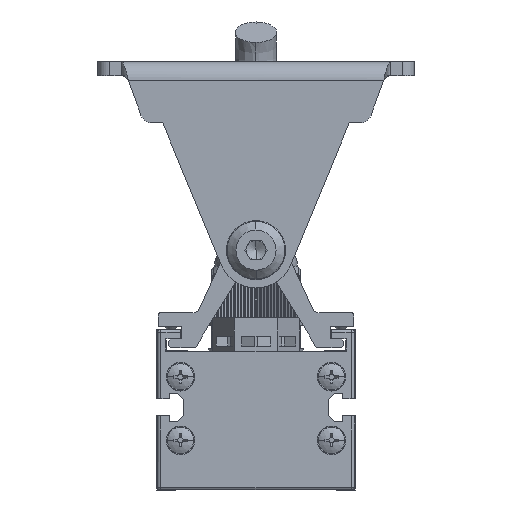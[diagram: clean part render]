
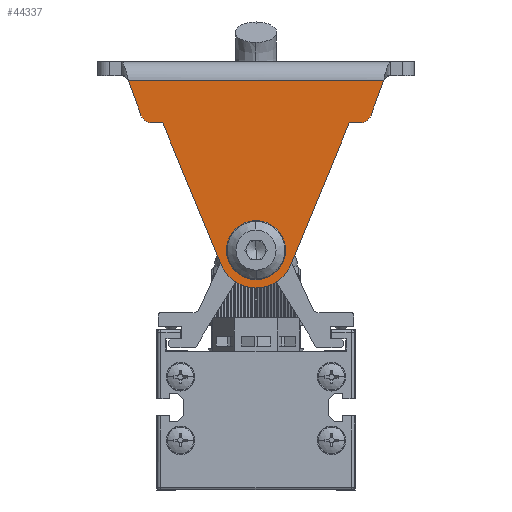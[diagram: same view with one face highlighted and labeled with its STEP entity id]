
A CAD part, front view. The second image highlights one B-rep face of the part: STEP entity #44337.
In plain terms, the highlighted planar face has unit normal (0, -1, 0) as drawn and (0, 0, -1) by its records, which use the part's own axes.
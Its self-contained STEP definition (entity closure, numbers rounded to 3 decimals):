
#43481=DIRECTION('',(-0.381,-0.924,0.));
#43482=VECTOR('',#43481,32.457);
#43483=CARTESIAN_POINT('',(-7.396,43.006,-18.));
#43484=LINE('',#43483,#43482);
#43485=DIRECTION('',(-1.,0.,0.));
#43486=VECTOR('',#43485,2.249);
#43487=CARTESIAN_POINT('',(-19.768,13.,-18.));
#43488=LINE('',#43487,#43486);
#43489=CARTESIAN_POINT('',(-22.018,10.5,-18.));
#43490=DIRECTION('',(0.,0.,1.));
#43491=DIRECTION('',(0.,1.,0.));
#43492=AXIS2_PLACEMENT_3D('',#43489,#43490,#43491);
#43494=DIRECTION('',(-0.342,-0.94,0.));
#43495=VECTOR('',#43494,7.827);
#43496=CARTESIAN_POINT('',(-24.367,11.355,-18.));
#43497=LINE('',#43496,#43495);
#43498=DIRECTION('',(-0.342,0.94,0.));
#43499=VECTOR('',#43498,7.827);
#43500=CARTESIAN_POINT('',(27.044,4.,-18.));
#43501=LINE('',#43500,#43499);
#43502=CARTESIAN_POINT('',(22.018,10.5,-18.));
#43503=DIRECTION('',(0.,0.,1.));
#43504=DIRECTION('',(0.94,0.342,0.));
#43505=AXIS2_PLACEMENT_3D('',#43502,#43503,#43504);
#43507=DIRECTION('',(-1.,0.,0.));
#43508=VECTOR('',#43507,2.249);
#43509=CARTESIAN_POINT('',(22.018,13.,-18.));
#43510=LINE('',#43509,#43508);
#43511=DIRECTION('',(-0.381,0.924,0.));
#43512=VECTOR('',#43511,32.457);
#43513=CARTESIAN_POINT('',(19.768,13.,-18.));
#43514=LINE('',#43513,#43512);
#43515=CARTESIAN_POINT('',(0.,39.957,-18.));
#43516=DIRECTION('',(0.,0.,1.));
#43517=DIRECTION('',(0.924,0.381,0.));
#43518=AXIS2_PLACEMENT_3D('',#43515,#43516,#43517);
#43520=CARTESIAN_POINT('',(0.,39.957,-18.));
#43521=DIRECTION('',(0.,0.,-1.));
#43522=DIRECTION('',(-1.,0.,0.));
#43523=AXIS2_PLACEMENT_3D('',#43520,#43521,#43522);
#43525=CARTESIAN_POINT('',(0.,39.957,-18.));
#43526=DIRECTION('',(0.,0.,-1.));
#43527=DIRECTION('',(1.,0.,0.));
#43528=AXIS2_PLACEMENT_3D('',#43525,#43526,#43527);
#43550=DIRECTION('',(-1.,0.,0.));
#43551=VECTOR('',#43550,54.088);
#43552=CARTESIAN_POINT('',(27.044,4.,-18.));
#43553=LINE('',#43552,#43551);
#44184=CARTESIAN_POINT('',(-7.396,43.006,-18.));
#44185=CARTESIAN_POINT('',(-19.768,13.,-18.));
#44186=VERTEX_POINT('',#44184);
#44187=VERTEX_POINT('',#44185);
#44188=CARTESIAN_POINT('',(-22.018,13.,-18.));
#44189=VERTEX_POINT('',#44188);
#44190=CARTESIAN_POINT('',(-24.367,11.355,-18.));
#44191=VERTEX_POINT('',#44190);
#44192=CARTESIAN_POINT('',(-27.044,4.,-18.));
#44193=VERTEX_POINT('',#44192);
#44194=CARTESIAN_POINT('',(27.044,4.,-18.));
#44195=VERTEX_POINT('',#44194);
#44196=CARTESIAN_POINT('',(24.367,11.355,-18.));
#44197=VERTEX_POINT('',#44196);
#44198=CARTESIAN_POINT('',(22.018,13.,-18.));
#44199=VERTEX_POINT('',#44198);
#44200=CARTESIAN_POINT('',(19.768,13.,-18.));
#44201=VERTEX_POINT('',#44200);
#44202=CARTESIAN_POINT('',(7.396,43.006,-18.));
#44203=VERTEX_POINT('',#44202);
#44204=CARTESIAN_POINT('',(-3.25,39.957,-18.));
#44205=CARTESIAN_POINT('',(3.25,39.957,-18.));
#44206=VERTEX_POINT('',#44204);
#44207=VERTEX_POINT('',#44205);
#44305=CARTESIAN_POINT('',(-33.5,0.,-18.));
#44306=DIRECTION('',(0.,0.,-1.));
#44307=DIRECTION('',(-1.,0.,0.));
#44308=AXIS2_PLACEMENT_3D('',#44305,#44306,#44307);
#44309=PLANE('',#44308);
#44310=ORIENTED_EDGE('',*,*,#44295,.T.);
#44312=ORIENTED_EDGE('',*,*,#44311,.T.);
#44314=ORIENTED_EDGE('',*,*,#44313,.T.);
#44316=ORIENTED_EDGE('',*,*,#44315,.T.);
#44318=ORIENTED_EDGE('',*,*,#44317,.F.);
#44320=ORIENTED_EDGE('',*,*,#44319,.T.);
#44322=ORIENTED_EDGE('',*,*,#44321,.T.);
#44324=ORIENTED_EDGE('',*,*,#44323,.T.);
#44326=ORIENTED_EDGE('',*,*,#44325,.T.);
#44328=ORIENTED_EDGE('',*,*,#44327,.T.);
#44329=EDGE_LOOP('',(#44310,#44312,#44314,#44316,#44318,#44320,#44322,#44324,
#44326,#44328));
#44330=FACE_OUTER_BOUND('',#44329,.F.);
#44332=ORIENTED_EDGE('',*,*,#44331,.T.);
#44334=ORIENTED_EDGE('',*,*,#44333,.T.);
#44335=EDGE_LOOP('',(#44332,#44334));
#44336=FACE_BOUND('',#44335,.F.);
#44337=ADVANCED_FACE('',(#44330,#44336),#44309,.T.);
#43493=CIRCLE('',#43492,2.5);
#43506=CIRCLE('',#43505,2.5);
#43519=CIRCLE('',#43518,8.);
#43524=CIRCLE('',#43523,3.25);
#43529=CIRCLE('',#43528,3.25);
#44295=EDGE_CURVE('',#44186,#44187,#43484,.T.);
#44311=EDGE_CURVE('',#44187,#44189,#43488,.T.);
#44313=EDGE_CURVE('',#44189,#44191,#43493,.T.);
#44315=EDGE_CURVE('',#44191,#44193,#43497,.T.);
#44317=EDGE_CURVE('',#44195,#44193,#43553,.T.);
#44319=EDGE_CURVE('',#44195,#44197,#43501,.T.);
#44321=EDGE_CURVE('',#44197,#44199,#43506,.T.);
#44323=EDGE_CURVE('',#44199,#44201,#43510,.T.);
#44325=EDGE_CURVE('',#44201,#44203,#43514,.T.);
#44327=EDGE_CURVE('',#44203,#44186,#43519,.T.);
#44331=EDGE_CURVE('',#44206,#44207,#43524,.T.);
#44333=EDGE_CURVE('',#44207,#44206,#43529,.T.);
